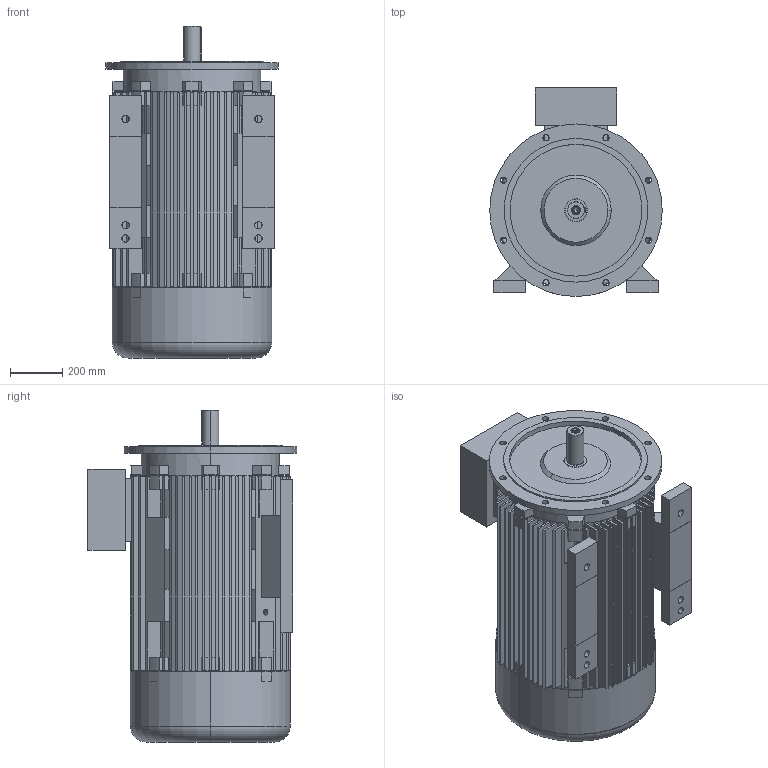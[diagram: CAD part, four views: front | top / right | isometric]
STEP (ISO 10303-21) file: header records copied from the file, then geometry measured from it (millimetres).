
FILE_DESCRIPTION (( 'STEP AP203' ), '1' );
FILE_NAME ('20.18378_C 7AZ 315S&M -2 B35 STANDK.STEP', '2018-05-18T11:10:22', ( '' ), ( '' ), 'SwSTEP 2.0', 'SolidWorks 2017', '' );
FILE_SCHEMA (( 'CONFIG_CONTROL_DESIGN' ));
Length unit declared in the file: millimetre
Products named in the file (1): 20.18378_C 7AZ 315S&M -2 B35 STANDK
Bounding box: 660 x 800 x 1270 mm (x, y, z)
Volume: 104389669.9 mm3; surface area: 11700789.4 mm2
Topology: 7 solids, 7 shells, 854 faces, 2308 edges, 1527 vertices
Faces by surface type: plane 680, cylinder 143, cone 18, bspline 9, torus 4
Entity records: 27014 total; most frequent: CARTESIAN_POINT 4997, ORIENTED_EDGE 4612, DIRECTION 4484, EDGE_CURVE 2306, LINE 1736, VECTOR 1736, VERTEX_POINT 1527, AXIS2_PLACEMENT_3D 1374
